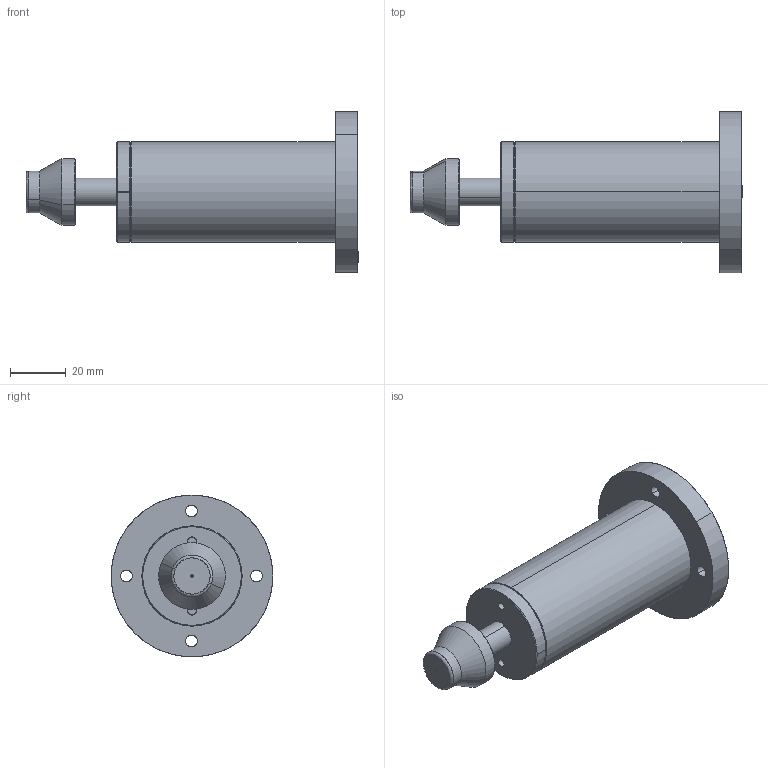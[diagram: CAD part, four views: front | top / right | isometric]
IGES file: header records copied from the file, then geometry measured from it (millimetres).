
Start section: SolidWorks IGES file using analytic representation for surfaces
Global section: file name: D:\IGS跡宒\AC3615.IGS,1; native system: 5HSolidWorks 2013; preprocessor: SolidWorks 2013; author: Administrator; date: 160919.081428; units: inch
Bounding box: 119.1 x 58 x 58 mm (x, y, z)
Surface area: 20395.2 mm2 (no closed solid volume)
Topology: 0 solids, 0 shells, 58 faces, 1336 edges, 1336 vertices
Faces by surface type: revolution 48, bspline 10
